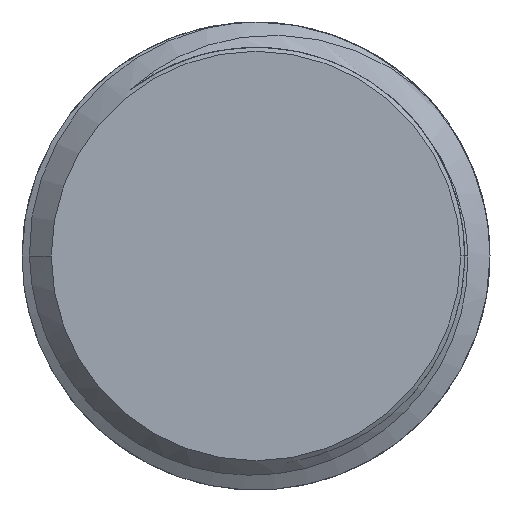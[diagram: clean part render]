
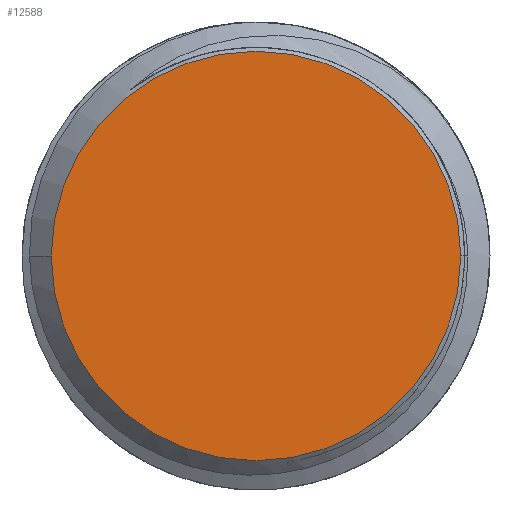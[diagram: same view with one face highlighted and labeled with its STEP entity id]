
A CAD part, left-side view. The second image highlights one B-rep face of the part: STEP entity #12588.
In plain terms, the highlighted planar face has unit normal (-1, 0, 0).
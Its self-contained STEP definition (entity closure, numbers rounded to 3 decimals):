
#222 = VERTEX_POINT ( 'NONE', #8932 ) ;
#919 = ORIENTED_EDGE ( 'NONE', *, *, #2365, .T. ) ;
#1329 = CIRCLE ( 'NONE', #12916, 3.5 ) ;
#1773 = EDGE_LOOP ( 'NONE', ( #919, #12657 ) ) ;
#2310 = AXIS2_PLACEMENT_3D ( 'NONE', #3159, #12366, #14640 ) ;
#2365 = EDGE_CURVE ( 'NONE', #14818, #222, #1329, .T. ) ;
#3147 = CARTESIAN_POINT ( 'NONE',  ( -32.5, 0., 0. ) ) ;
#3159 = CARTESIAN_POINT ( 'NONE',  ( -32.5, 0., 0. ) ) ;
#5484 = EDGE_CURVE ( 'NONE', #222, #14818, #9700, .T. ) ;
#7016 = PLANE ( 'NONE',  #2310 ) ;
#7185 = FACE_OUTER_BOUND ( 'NONE', #1773, .T. ) ;
#7502 = DIRECTION ( 'NONE',  ( 0., -1., 0. ) ) ;
#7530 = AXIS2_PLACEMENT_3D ( 'NONE', #12584, #8686, #7502 ) ;
#8686 = DIRECTION ( 'NONE',  ( -1., 0., 0. ) ) ;
#8932 = CARTESIAN_POINT ( 'NONE',  ( -32.5, -3.5, 0. ) ) ;
#9700 = CIRCLE ( 'NONE', #7530, 3.5 ) ;
#12366 = DIRECTION ( 'NONE',  ( 1., 0., 0. ) ) ;
#12584 = CARTESIAN_POINT ( 'NONE',  ( -32.5, 0., 0. ) ) ;
#12588 = ADVANCED_FACE ( 'NONE', ( #7185 ), #7016, .F. ) ;
#12657 = ORIENTED_EDGE ( 'NONE', *, *, #5484, .T. ) ;
#12916 = AXIS2_PLACEMENT_3D ( 'NONE', #3147, #14796, #14626 ) ;
#14626 = DIRECTION ( 'NONE',  ( 0., -1., 0. ) ) ;
#14640 = DIRECTION ( 'NONE',  ( 0., 1., 0. ) ) ;
#14782 = CARTESIAN_POINT ( 'NONE',  ( -32.5, 3.5, 0. ) ) ;
#14796 = DIRECTION ( 'NONE',  ( -1., 0., 0. ) ) ;
#14818 = VERTEX_POINT ( 'NONE', #14782 ) ;
